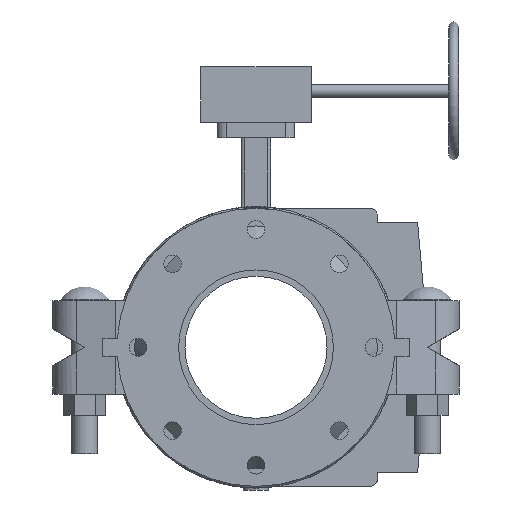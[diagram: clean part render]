
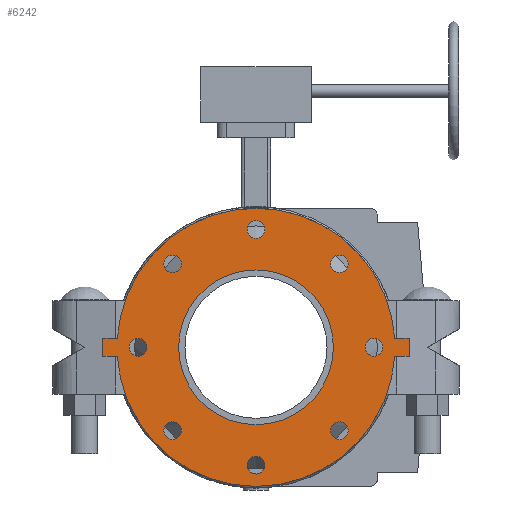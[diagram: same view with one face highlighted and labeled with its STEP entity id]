
A CAD part, front view. The second image highlights one B-rep face of the part: STEP entity #6242.
In plain terms, the highlighted planar face has unit normal (0, -1, 0) as drawn and (0, 0, -1) by its records, which use the part's own axes.
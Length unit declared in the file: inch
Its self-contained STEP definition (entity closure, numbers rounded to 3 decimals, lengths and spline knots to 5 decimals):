
#176=FACE_BOUND('',#807,.T.);
#177=FACE_BOUND('',#808,.T.);
#178=FACE_BOUND('',#809,.T.);
#179=FACE_BOUND('',#810,.T.);
#180=FACE_BOUND('',#811,.T.);
#181=FACE_BOUND('',#812,.T.);
#182=FACE_BOUND('',#813,.T.);
#183=FACE_BOUND('',#814,.T.);
#184=FACE_BOUND('',#815,.T.);
#251=PLANE('',#6780);
#462=FACE_OUTER_BOUND('',#806,.T.);
#806=EDGE_LOOP('',(#4066,#4067,#4068,#4069,#4070,#4071,#4072,#4073));
#807=EDGE_LOOP('',(#4074));
#808=EDGE_LOOP('',(#4075));
#809=EDGE_LOOP('',(#4076));
#810=EDGE_LOOP('',(#4077));
#811=EDGE_LOOP('',(#4078));
#812=EDGE_LOOP('',(#4079));
#813=EDGE_LOOP('',(#4080));
#814=EDGE_LOOP('',(#4081));
#815=EDGE_LOOP('',(#4082));
#1204=LINE('',#9463,#1672);
#1207=LINE('',#9469,#1675);
#1210=LINE('',#9474,#1678);
#1212=LINE('',#9479,#1680);
#1216=LINE('',#9486,#1684);
#1218=LINE('',#9489,#1686);
#1672=VECTOR('',#7550,0.3937);
#1675=VECTOR('',#7555,0.3937);
#1678=VECTOR('',#7560,0.3937);
#1680=VECTOR('',#7564,0.3937);
#1684=VECTOR('',#7570,0.3937);
#1686=VECTOR('',#7574,0.3937);
#2128=CIRCLE('',#6742,0.315);
#2130=CIRCLE('',#6745,0.315);
#2132=CIRCLE('',#6748,0.315);
#2134=CIRCLE('',#6751,0.315);
#2136=CIRCLE('',#6754,0.315);
#2138=CIRCLE('',#6757,0.315);
#2140=CIRCLE('',#6760,0.315);
#2142=CIRCLE('',#6763,0.315);
#2143=CIRCLE('',#6765,2.75);
#2145=CIRCLE('',#6768,4.94);
#2148=CIRCLE('',#6772,4.94);
#2482=VERTEX_POINT('',#9392);
#2484=VERTEX_POINT('',#9398);
#2486=VERTEX_POINT('',#9404);
#2488=VERTEX_POINT('',#9410);
#2490=VERTEX_POINT('',#9416);
#2492=VERTEX_POINT('',#9422);
#2494=VERTEX_POINT('',#9428);
#2496=VERTEX_POINT('',#9434);
#2497=VERTEX_POINT('',#9438);
#2499=VERTEX_POINT('',#9444);
#2501=VERTEX_POINT('',#9447);
#2503=VERTEX_POINT('',#9453);
#2506=VERTEX_POINT('',#9458);
#2507=VERTEX_POINT('',#9462);
#2509=VERTEX_POINT('',#9468);
#2511=VERTEX_POINT('',#9477);
#2512=VERTEX_POINT('',#9478);
#3089=EDGE_CURVE('',#2482,#2482,#2128,.T.);
#3092=EDGE_CURVE('',#2484,#2484,#2130,.T.);
#3095=EDGE_CURVE('',#2486,#2486,#2132,.T.);
#3098=EDGE_CURVE('',#2488,#2488,#2134,.T.);
#3101=EDGE_CURVE('',#2490,#2490,#2136,.T.);
#3104=EDGE_CURVE('',#2492,#2492,#2138,.T.);
#3107=EDGE_CURVE('',#2494,#2494,#2140,.T.);
#3110=EDGE_CURVE('',#2496,#2496,#2142,.T.);
#3111=EDGE_CURVE('',#2497,#2497,#2143,.T.);
#3115=EDGE_CURVE('',#2499,#2501,#2145,.T.);
#3121=EDGE_CURVE('',#2506,#2503,#2148,.T.);
#3122=EDGE_CURVE('',#2501,#2507,#1204,.T.);
#3125=EDGE_CURVE('',#2509,#2506,#1207,.T.);
#3128=EDGE_CURVE('',#2507,#2509,#1210,.T.);
#3130=EDGE_CURVE('',#2511,#2512,#1212,.T.);
#3134=EDGE_CURVE('',#2503,#2511,#1216,.T.);
#3136=EDGE_CURVE('',#2512,#2499,#1218,.T.);
#4066=ORIENTED_EDGE('',*,*,#3136,.F.);
#4067=ORIENTED_EDGE('',*,*,#3130,.F.);
#4068=ORIENTED_EDGE('',*,*,#3134,.F.);
#4069=ORIENTED_EDGE('',*,*,#3121,.F.);
#4070=ORIENTED_EDGE('',*,*,#3125,.F.);
#4071=ORIENTED_EDGE('',*,*,#3128,.F.);
#4072=ORIENTED_EDGE('',*,*,#3122,.F.);
#4073=ORIENTED_EDGE('',*,*,#3115,.F.);
#4074=ORIENTED_EDGE('',*,*,#3089,.T.);
#4075=ORIENTED_EDGE('',*,*,#3092,.T.);
#4076=ORIENTED_EDGE('',*,*,#3095,.T.);
#4077=ORIENTED_EDGE('',*,*,#3098,.T.);
#4078=ORIENTED_EDGE('',*,*,#3101,.T.);
#4079=ORIENTED_EDGE('',*,*,#3104,.T.);
#4080=ORIENTED_EDGE('',*,*,#3107,.T.);
#4081=ORIENTED_EDGE('',*,*,#3110,.T.);
#4082=ORIENTED_EDGE('',*,*,#3111,.T.);
#6242=ADVANCED_FACE('',(#462,#176,#177,#178,#179,#180,#181,#182,#183,#184),
#251,.F.);
#6742=AXIS2_PLACEMENT_3D('',#9394,#7474,#7475);
#6745=AXIS2_PLACEMENT_3D('',#9400,#7481,#7482);
#6748=AXIS2_PLACEMENT_3D('',#9406,#7488,#7489);
#6751=AXIS2_PLACEMENT_3D('',#9412,#7495,#7496);
#6754=AXIS2_PLACEMENT_3D('',#9418,#7502,#7503);
#6757=AXIS2_PLACEMENT_3D('',#9424,#7509,#7510);
#6760=AXIS2_PLACEMENT_3D('',#9430,#7516,#7517);
#6763=AXIS2_PLACEMENT_3D('',#9436,#7523,#7524);
#6765=AXIS2_PLACEMENT_3D('',#9439,#7527,#7528);
#6768=AXIS2_PLACEMENT_3D('',#9448,#7535,#7536);
#6772=AXIS2_PLACEMENT_3D('',#9460,#7546,#7547);
#6780=AXIS2_PLACEMENT_3D('',#9492,#7578,#7579);
#7474=DIRECTION('center_axis',(0.,0.,1.));
#7475=DIRECTION('ref_axis',(-0.707,-0.707,0.));
#7481=DIRECTION('center_axis',(0.,0.,1.));
#7482=DIRECTION('ref_axis',(-1.,0.,0.));
#7488=DIRECTION('center_axis',(0.,0.,1.));
#7489=DIRECTION('ref_axis',(-0.707,0.707,0.));
#7495=DIRECTION('center_axis',(0.,0.,1.));
#7496=DIRECTION('ref_axis',(0.,1.,0.));
#7502=DIRECTION('center_axis',(0.,0.,1.));
#7503=DIRECTION('ref_axis',(0.707,0.707,0.));
#7509=DIRECTION('center_axis',(0.,0.,1.));
#7510=DIRECTION('ref_axis',(1.,0.,0.));
#7516=DIRECTION('center_axis',(0.,0.,1.));
#7517=DIRECTION('ref_axis',(0.707,-0.707,0.));
#7523=DIRECTION('center_axis',(0.,0.,1.));
#7524=DIRECTION('ref_axis',(0.,-1.,0.));
#7527=DIRECTION('center_axis',(0.,0.,1.));
#7528=DIRECTION('ref_axis',(0.,-1.,0.));
#7535=DIRECTION('center_axis',(0.,0.,1.));
#7536=DIRECTION('ref_axis',(0.,1.,0.));
#7546=DIRECTION('center_axis',(0.,0.,1.));
#7547=DIRECTION('ref_axis',(0.,1.,0.));
#7550=DIRECTION('',(0.,-1.,0.));
#7555=DIRECTION('',(0.,1.,0.));
#7560=DIRECTION('',(1.,0.,0.));
#7564=DIRECTION('',(-1.,0.,0.));
#7570=DIRECTION('',(0.,1.,0.));
#7574=DIRECTION('',(0.,-1.,0.));
#7578=DIRECTION('center_axis',(0.,0.,1.));
#7579=DIRECTION('ref_axis',(0.,1.,0.));
#9392=CARTESIAN_POINT('',(-2.74004,3.18552,0.));
#9394=CARTESIAN_POINT('Origin',(-2.96278,2.96278,0.));
#9398=CARTESIAN_POINT('',(0.315,4.19,0.));
#9400=CARTESIAN_POINT('Origin',(0.,4.19,0.));
#9404=CARTESIAN_POINT('',(3.18552,2.74004,0.));
#9406=CARTESIAN_POINT('Origin',(2.96278,2.96278,0.));
#9410=CARTESIAN_POINT('',(4.19,-0.315,0.));
#9412=CARTESIAN_POINT('Origin',(4.19,0.,0.));
#9416=CARTESIAN_POINT('',(2.74004,-3.18552,0.));
#9418=CARTESIAN_POINT('Origin',(2.96278,-2.96278,0.));
#9422=CARTESIAN_POINT('',(-0.315,-4.19,0.));
#9424=CARTESIAN_POINT('Origin',(0.,-4.19,0.));
#9428=CARTESIAN_POINT('',(-3.18552,-2.74004,0.));
#9430=CARTESIAN_POINT('Origin',(-2.96278,-2.96278,0.));
#9434=CARTESIAN_POINT('',(-4.19,0.315,0.));
#9436=CARTESIAN_POINT('Origin',(-4.19,0.,0.));
#9438=CARTESIAN_POINT('',(0.,2.75,0.));
#9439=CARTESIAN_POINT('Origin',(0.,0.,0.));
#9444=CARTESIAN_POINT('',(-0.32,4.92962,0.));
#9447=CARTESIAN_POINT('',(-0.32,-4.92962,0.));
#9448=CARTESIAN_POINT('Origin',(0.,0.,0.));
#9453=CARTESIAN_POINT('',(0.32,4.92962,0.));
#9458=CARTESIAN_POINT('',(0.32,-4.92962,0.));
#9460=CARTESIAN_POINT('Origin',(0.,0.,0.));
#9462=CARTESIAN_POINT('',(-0.32,-5.44,0.));
#9463=CARTESIAN_POINT('',(-0.32,-4.92962,0.));
#9468=CARTESIAN_POINT('',(0.32,-5.44,0.));
#9469=CARTESIAN_POINT('',(0.32,-5.44,0.));
#9474=CARTESIAN_POINT('',(-0.32,-5.44,0.));
#9477=CARTESIAN_POINT('',(0.32,5.44,0.));
#9478=CARTESIAN_POINT('',(-0.32,5.44,0.));
#9479=CARTESIAN_POINT('',(0.32,5.44,0.));
#9486=CARTESIAN_POINT('',(0.32,4.92962,0.));
#9489=CARTESIAN_POINT('',(-0.32,5.44,0.));
#9492=CARTESIAN_POINT('Origin',(0.,5.20539,0.));
